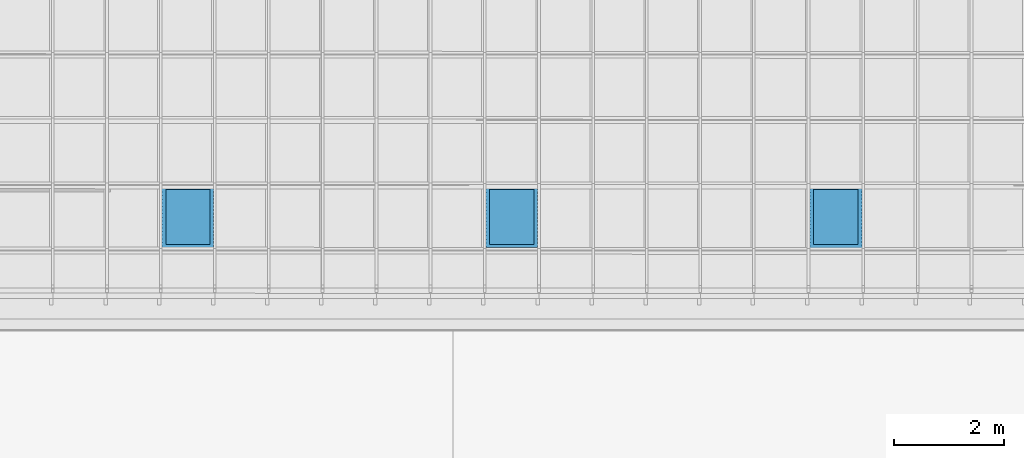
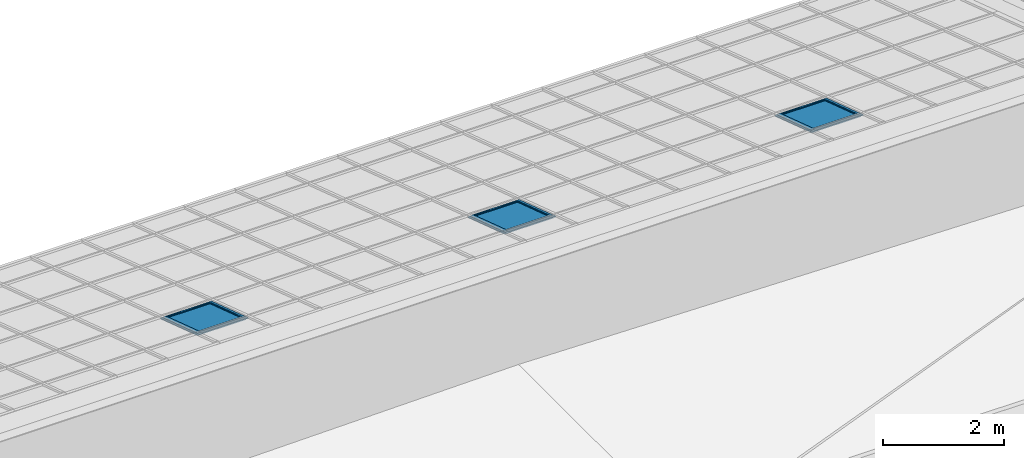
# One storey, part 22 of 47: 6 building element parts, 4 elements without a shape of their own.
"""IFC2X3 building model written with IfcOpenShell, lengths in millimetres."""

from ifc_helpers import new_model, entity, si_unit, converted_unit, derived_unit, money_unit, direction, frame, origin_with_axes, place, context, subcontext, project, spatial, faceted_brep, material, type_object, element, aggregate, save


model = new_model("IFC2X3")

# Units and contexts
model_context = context("Model", 3, precision=1e-05, world=origin_with_axes(), true_north=direction((0.0, 1.0)))
body_context = subcontext(model_context, "Body", "Model", "MODEL_VIEW")
ifc_project = project(units=[si_unit("LENGTHUNIT", "METRE", prefix="MILLI"), si_unit("AREAUNIT", "SQUARE_METRE"), si_unit("VOLUMEUNIT", "CUBIC_METRE"), converted_unit("PLANEANGLEUNIT", "DEGREE", entity("IfcPlaneAngleMeasure", 0.0174532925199), si_unit("PLANEANGLEUNIT", "RADIAN"), dimensions=[0, 0, 0, 0, 0, 0, 0]), si_unit("SOLIDANGLEUNIT", "STERADIAN"), money_unit("EUR"), converted_unit("TIMEUNIT", "Year", entity("IfcTimeMeasure", 31556926.0), si_unit("TIMEUNIT", "SECOND"), dimensions=[0, 0, 1, 0, 0, 0, 0]), si_unit("MASSUNIT", "GRAM", prefix="KILO"), si_unit("THERMODYNAMICTEMPERATUREUNIT", "DEGREE_CELSIUS"), si_unit("LUMINOUSINTENSITYUNIT", "LUMEN"), si_unit("ENERGYUNIT", "JOULE", prefix="MEGA"), derived_unit("THERMALCONDUCTANCEUNIT", [(si_unit("POWERUNIT", "WATT"), 1), (si_unit("LENGTHUNIT", "METRE"), -1), (si_unit("THERMODYNAMICTEMPERATUREUNIT", "KELVIN"), -1)]), derived_unit("SPECIFICHEATCAPACITYUNIT", [(si_unit("ENERGYUNIT", "JOULE"), 1), (si_unit("MASSUNIT", "GRAM", prefix="KILO"), -1), (si_unit("THERMODYNAMICTEMPERATUREUNIT", "KELVIN"), -1)]), derived_unit("MASSDENSITYUNIT", [(si_unit("MASSUNIT", "GRAM", prefix="KILO"), 1), (si_unit("VOLUMEUNIT", "CUBIC_METRE"), -1)])], contexts=[model_context])

# Site, building, storey
site_placement = place(None, origin_with_axes())
site = spatial("IfcSite", under=ifc_project, at=site_placement, Name="Site", CompositionType="ELEMENT")
building_placement = place(site_placement, origin_with_axes())
building = spatial("IfcBuilding", under=site, at=building_placement, Name="Building", CompositionType="ELEMENT")
storey_placement = place(building_placement, frame((0.0, 0.0, 6000.0), z_axis=(0.0, 0.0, 1.0), x_axis=(1.0, 0.0, 0.0)))
storey = spatial("IfcBuildingStorey", under=building, at=storey_placement, Name="KATUSEPLAAN", CompositionType="ELEMENT", Elevation=6000.0)

# Curtain wall, windows, building element parts
curtain_wall_type = type_object("IfcCurtainWallType", Name="KK-2", PredefinedType="NOTDEFINED")
curtain_wall_placement = place(storey_placement, frame((71638.1505463, 41358.6055567, 722.550081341), z_axis=(0.0, 0.0, 1.0), x_axis=(1.0, 0.0, 0.0)))
curtain_wall = element("IfcCurtainWall", 1, at=curtain_wall_placement, inside=storey, type_object=curtain_wall_type, Name="Talveaja klaaskatus")
window_style = type_object("IfcWindowStyle", Name="Curtain Wall Panel - Window 5 x 5 x 20", ConstructionType="NOTDEFINED", OperationType="NOTDEFINED", ParameterTakesPrecedence=False, Sizeable=False)
window_1_placement = place(curtain_wall_placement, frame((5888.99750429, 1068.74555794, 1622.9513909), z_axis=(0.0, 0.0, 1.0), x_axis=(-0.999995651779, 0.00294896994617, 0.0)))
window_1 = element("IfcWindow", 2, at=window_1_placement, type_object=window_style, Name="Suitsuluuk * CW Window 22")
ifc_material_1 = material(Name="Alumiinium (1)")
building_element_part_1_placement = place(window_1_placement, origin_with_axes())
building_element_part_1 = element("IfcBuildingElementPart", 3, at=building_element_part_1_placement, material=ifc_material_1, Name="Alumiinium (1)", context=body_context, shape_type="Brep", body=[
    faceted_brep([(469.679116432, -575.007553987, -167.904307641), (469.679116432, -576.568510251, -163.154211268), (-466.317228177, -579.05972531, -163.972863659), (-466.317228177, -577.498769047, -168.722960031), (424.553221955, -532.376624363, -153.895114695), (424.553221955, -533.937580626, -149.145018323), (-421.443475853, -536.189255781, -149.884954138), (-421.443475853, -534.628299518, -154.635050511)], [[[0, 1, 2, 3]], [[4, 5, 1, 0]], [[1, 5, 6, 2]], [[3, 2, 6, 7]], [[0, 3, 7, 4]], [[7, 6, 5, 4]]]),
    faceted_brep([(-466.317228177, -577.498769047, -168.722960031), (-466.317228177, -579.05972531, -163.972863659), (-469.679123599, 560.958947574, 210.655174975), (-469.679123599, 562.519903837, 205.905078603), (-421.443475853, -534.628299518, -154.635050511), (-421.443475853, -536.189255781, -149.884954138), (-424.553229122, 518.328017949, 196.645982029), (-424.553229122, 519.888974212, 191.895885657)], [[[0, 1, 2, 3]], [[4, 5, 1, 0]], [[1, 5, 6, 2]], [[3, 2, 6, 7]], [[0, 3, 7, 4]], [[7, 6, 5, 4]]]),
    faceted_brep([(466.31722101, 565.011118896, 206.723730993), (466.31722101, 563.450162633, 211.473827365), (421.443468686, 520.579693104, 197.385917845), (421.443468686, 522.140649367, 192.635821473), (-469.679123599, 562.519903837, 205.905078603), (-469.679123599, 560.958947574, 210.655174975), (-424.553229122, 518.328017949, 196.645982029), (-424.553229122, 519.888974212, 191.895885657)], [[[0, 1, 2, 3]], [[4, 5, 1, 0]], [[1, 5, 6, 2]], [[3, 2, 6, 7]], [[0, 3, 7, 4]], [[7, 6, 5, 4]]]),
    faceted_brep([(469.679116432, -575.007553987, -167.904307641), (469.679116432, -576.568510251, -163.154211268), (424.553221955, -533.937580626, -149.145018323), (424.553221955, -532.376624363, -153.895114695), (466.31722101, 565.011118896, 206.723730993), (466.31722101, 563.450162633, 211.473827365), (421.443468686, 520.579693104, 197.385917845), (421.443468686, 522.140649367, 192.635821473)], [[[0, 1, 2, 3]], [[4, 5, 1, 0]], [[1, 5, 6, 2]], [[3, 2, 6, 7]], [[0, 3, 7, 4]], [[7, 6, 5, 4]]]),
    faceted_brep([(469.679116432, -559.397991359, -215.405271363), (469.679116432, -575.007553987, -167.904307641), (-466.317228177, -577.498769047, -168.722960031), (-466.317228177, -561.889206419, -216.223923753), (449.623163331, -540.450911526, -209.178963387), (449.623163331, -556.060474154, -161.677999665), (-446.373338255, -558.445227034, -162.461666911), (-446.373338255, -542.835664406, -209.962630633)], [[[0, 1, 2, 3]], [[4, 5, 1, 0]], [[1, 5, 6, 2]], [[3, 2, 6, 7]], [[0, 3, 7, 4]], [[7, 6, 5, 4]]]),
    faceted_brep([(-466.317228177, -561.889206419, -216.223923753), (-466.317228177, -577.498769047, -168.722960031), (-469.679123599, 562.519903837, 205.905078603), (-469.679123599, 578.129466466, 158.404114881), (-446.373338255, -542.835664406, -209.962630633), (-446.373338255, -558.445227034, -162.461666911), (-449.623170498, 543.572824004, 199.678770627), (-449.623170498, 559.182386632, 152.177806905)], [[[0, 1, 2, 3]], [[4, 5, 1, 0]], [[1, 5, 6, 2]], [[3, 2, 6, 7]], [[0, 3, 7, 4]], [[7, 6, 5, 4]]]),
    faceted_brep([(466.31722101, 580.620681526, 159.222767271), (466.31722101, 565.011118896, 206.723730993), (446.373331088, 545.957576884, 200.462437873), (446.373331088, 561.567139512, 152.961474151), (-469.679123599, 578.129466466, 158.404114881), (-469.679123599, 562.519903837, 205.905078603), (-449.623170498, 543.572824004, 199.678770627), (-449.623170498, 559.182386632, 152.177806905)], [[[0, 1, 2, 3]], [[4, 5, 1, 0]], [[1, 5, 6, 2]], [[3, 2, 6, 7]], [[0, 3, 7, 4]], [[7, 6, 5, 4]]]),
    faceted_brep([(469.679116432, -559.397991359, -215.405271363), (469.679116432, -575.007553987, -167.904307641), (449.623163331, -556.060474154, -161.677999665), (449.623163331, -540.450911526, -209.178963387), (466.31722101, 580.620681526, 159.222767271), (466.31722101, 565.011118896, 206.723730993), (446.373331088, 545.957576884, 200.462437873), (446.373331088, 561.567139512, 152.961474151)], [[[0, 1, 2, 3]], [[4, 5, 1, 0]], [[1, 5, 6, 2]], [[3, 2, 6, 7]], [[0, 3, 7, 4]], [[7, 6, 5, 4]]]),
    faceted_brep([(499.763044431, -594.062427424, -205.744344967), (499.763044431, -600.306252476, -186.743959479), (-496.233048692, -602.957160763, -187.615089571), (-496.233048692, -596.713335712, -206.61547506), (469.679116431, -565.64181641, -196.404885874), (469.679116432, -571.885641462, -177.404500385), (-466.317228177, -574.376856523, -178.223152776), (-466.317228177, -568.13303147, -197.223538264)], [[[0, 1, 2, 3]], [[4, 5, 1, 0]], [[1, 5, 6, 2]], [[3, 2, 6, 7]], [[0, 3, 7, 4]], [[7, 6, 5, 4]]]),
    faceted_brep([(-496.233048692, -596.713335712, -206.61547506), (-496.233048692, -602.957160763, -187.615089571), (-499.763038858, 594.062436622, 205.74434799), (-499.763038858, 600.306261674, 186.743962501), (-466.317228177, -568.13303147, -197.223538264), (-466.317228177, -574.376856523, -178.223152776), (-469.679123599, 565.641816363, 196.404885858), (-469.679123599, 571.885641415, 177.404500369)], [[[0, 1, 2, 3]], [[4, 5, 1, 0]], [[1, 5, 6, 2]], [[3, 2, 6, 7]], [[0, 3, 7, 4]], [[7, 6, 5, 4]]]),
    faceted_brep([(-499.763038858, 600.306261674, 186.743962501), (-499.763038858, 594.062436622, 205.74434799), (496.233054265, 596.713344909, 206.615478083), (496.233054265, 602.957169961, 187.615092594), (-469.679123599, 571.885641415, 177.404500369), (-469.679123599, 565.641816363, 196.404885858), (466.31722101, 568.133031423, 197.223538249), (466.31722101, 574.376856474, 178.22315276)], [[[0, 1, 2, 3]], [[4, 5, 1, 0]], [[1, 5, 6, 2]], [[3, 2, 6, 7]], [[0, 3, 7, 4]], [[7, 6, 5, 4]]]),
    faceted_brep([(496.233054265, 602.957169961, 187.615092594), (496.233054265, 596.713344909, 206.615478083), (499.763044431, -600.306252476, -186.743959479), (499.763044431, -594.062427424, -205.744344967), (466.31722101, 574.376856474, 178.22315276), (466.31722101, 568.133031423, 197.223538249), (469.679116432, -571.885641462, -177.404500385), (469.679116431, -565.64181641, -196.404885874)], [[[0, 1, 2, 3]], [[4, 5, 1, 0]], [[1, 5, 6, 2]], [[3, 2, 6, 7]], [[0, 3, 7, 4]], [[7, 6, 5, 4]]]),
    faceted_brep([(404.497268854, -513.42954453, -147.668806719), (401.499578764, 503.087107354, 186.374528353), (401.499578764, 520.257626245, 134.123468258), (404.497268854, -496.259025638, -199.919866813), (449.623163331, -556.060474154, -161.677999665), (446.373331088, 545.957576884, 200.462437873), (446.373331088, 563.128095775, 148.211377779), (449.623163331, -538.889955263, -213.929059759)], [[[0, 1, 2, 3]], [[0, 4, 5, 1]], [[1, 5, 6, 2]], [[3, 2, 6, 7]], [[4, 0, 3, 7]], [[5, 4, 7, 6]]]),
    faceted_brep([(-446.373338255, -558.445227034, -162.461666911), (-449.623170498, 543.572824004, 199.678770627), (-449.623170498, 560.743342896, 147.427710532), (-446.373338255, -541.274708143, -214.712727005), (-401.499585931, -515.574757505, -148.37375739), (-404.497276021, 500.941894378, 185.669577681), (-404.497276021, 518.112413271, 133.418517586), (-401.499585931, -498.404238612, -200.624817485)], [[[0, 1, 2, 3]], [[0, 4, 5, 1]], [[1, 5, 6, 2]], [[3, 2, 6, 7]], [[4, 0, 3, 7]], [[5, 4, 7, 6]]]),
    faceted_brep([(-446.373338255, -558.445227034, -162.461666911), (-401.499585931, -515.574757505, -148.37375739), (-401.499585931, -498.404238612, -200.624817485), (-446.373338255, -541.274708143, -214.712727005), (449.623163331, -556.060474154, -161.677999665), (404.497268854, -513.42954453, -147.668806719), (404.497268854, -496.259025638, -199.919866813), (449.623163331, -538.889955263, -213.929059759)], [[[0, 1, 2, 3]], [[0, 4, 5, 1]], [[1, 5, 6, 2]], [[3, 2, 6, 7]], [[4, 0, 3, 7]], [[5, 4, 7, 6]]]),
    faceted_brep([(446.373331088, 545.957576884, 200.462437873), (401.499578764, 503.087107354, 186.374528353), (401.499578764, 520.257626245, 134.123468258), (446.373331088, 563.128095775, 148.211377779), (-449.623170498, 543.572824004, 199.678770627), (-404.497276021, 500.941894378, 185.669577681), (-404.497276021, 518.112413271, 133.418517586), (-449.623170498, 560.743342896, 147.427710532)], [[[0, 1, 2, 3]], [[0, 4, 5, 1]], [[1, 5, 6, 2]], [[3, 2, 6, 7]], [[4, 0, 3, 7]], [[5, 4, 7, 6]]]),
])
ifc_material_2 = material(Name="Klaas (1)")
building_element_part_2_placement = place(window_1_placement, origin_with_axes())
building_element_part_2 = element("IfcBuildingElementPart", 4, at=building_element_part_2_placement, material=ifc_material_2, Name="Klaas (1)", context=body_context, shape_type="Brep", body=[
    faceted_brep([(404.497268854, -510.307632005, -157.168999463), (-401.499585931, -512.452844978, -157.873950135), (-401.499585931, -507.457784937, -173.074258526), (404.497268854, -505.312571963, -172.369307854), (401.499578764, 506.209019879, 176.874335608), (-404.497276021, 504.063806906, 176.169384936), (-404.497276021, 509.058866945, 160.969076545), (401.499578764, 511.204079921, 161.674027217)], [[[0, 1, 2, 3]], [[0, 4, 5, 1]], [[1, 5, 6, 2]], [[3, 2, 6, 7]], [[4, 0, 3, 7]], [[5, 4, 7, 6]]]),
])
aggregate(window_1, [building_element_part_1, building_element_part_2])
window_2_placement = place(curtain_wall_placement, frame((11776.4950092, 1067.05339951, 1617.80201499), z_axis=(0.0, 0.0, 1.0), x_axis=(-0.999995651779, 0.00294896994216, 0.0)))
window_2 = element("IfcWindow", 5, at=window_2_placement, type_object=window_style, Name="Suitsuluuk * CW Window 22")
building_element_part_3_placement = place(window_2_placement, origin_with_axes())
building_element_part_3 = element("IfcBuildingElementPart", 6, at=building_element_part_3_placement, material=ifc_material_1, Name="Alumiinium (1)", context=body_context, shape_type="Brep", body=[
    faceted_brep([(473.179105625, -574.998233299, -167.901244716), (473.179105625, -576.559189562, -163.151148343), (-469.817197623, -579.069035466, -163.975923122), (-469.817197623, -577.508079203, -168.726019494), (428.053211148, -532.367303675, -153.89205177), (428.053211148, -533.928259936, -149.141955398), (-424.943445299, -536.198565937, -149.888013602), (-424.943445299, -534.637609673, -154.638109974)], [[[0, 1, 2, 3]], [[4, 5, 1, 0]], [[1, 5, 6, 2]], [[3, 2, 6, 7]], [[0, 3, 7, 4]], [[7, 6, 5, 4]]]),
    faceted_brep([(-469.817197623, -577.508079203, -168.726019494), (-469.817197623, -579.069035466, -163.975923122), (-473.179093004, 560.949623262, 210.65211086), (-473.179093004, 562.510579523, 205.902014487), (-424.943445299, -534.637609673, -154.638109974), (-424.943445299, -536.198565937, -149.888013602), (-428.053198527, 518.318693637, 196.642917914), (-428.053198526, 519.879649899, 191.892821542)], [[[0, 1, 2, 3]], [[4, 5, 1, 0]], [[1, 5, 6, 2]], [[3, 2, 6, 7]], [[0, 3, 7, 4]], [[7, 6, 5, 4]]]),
    faceted_brep([(469.817210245, 565.020425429, 206.726789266), (469.817210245, 563.459469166, 211.476885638), (424.943457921, 520.588999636, 197.388976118), (424.943457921, 522.149955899, 192.638879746), (-473.179093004, 562.510579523, 205.902014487), (-473.179093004, 560.949623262, 210.65211086), (-428.053198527, 518.318693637, 196.642917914), (-428.053198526, 519.879649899, 191.892821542)], [[[0, 1, 2, 3]], [[4, 5, 1, 0]], [[1, 5, 6, 2]], [[3, 2, 6, 7]], [[0, 3, 7, 4]], [[7, 6, 5, 4]]]),
    faceted_brep([(473.179105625, -574.998233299, -167.901244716), (473.179105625, -576.559189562, -163.151148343), (428.053211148, -533.928259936, -149.141955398), (428.053211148, -532.367303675, -153.89205177), (469.817210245, 565.020425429, 206.726789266), (469.817210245, 563.459469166, 211.476885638), (424.943457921, 520.588999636, 197.388976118), (424.943457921, 522.149955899, 192.638879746)], [[[0, 1, 2, 3]], [[4, 5, 1, 0]], [[1, 5, 6, 2]], [[3, 2, 6, 7]], [[0, 3, 7, 4]], [[7, 6, 5, 4]]]),
    faceted_brep([(473.179105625, -559.388670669, -215.402208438), (473.179105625, -574.998233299, -167.901244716), (-469.817197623, -577.508079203, -168.726019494), (-469.817197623, -561.898516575, -216.226983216), (453.123152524, -540.441590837, -209.175900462), (453.123152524, -556.051153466, -161.67493674), (-449.873307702, -558.454537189, -162.464726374), (-449.873307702, -542.84497456, -209.965690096)], [[[0, 1, 2, 3]], [[4, 5, 1, 0]], [[1, 5, 6, 2]], [[3, 2, 6, 7]], [[0, 3, 7, 4]], [[7, 6, 5, 4]]]),
    faceted_brep([(-469.817197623, -561.898516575, -216.226983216), (-469.817197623, -577.508079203, -168.726019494), (-473.179093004, 562.510579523, 205.902014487), (-473.179093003, 578.120142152, 158.401050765), (-449.873307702, -542.84497456, -209.965690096), (-449.873307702, -558.454537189, -162.464726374), (-453.123139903, 543.563499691, 199.675706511), (-453.123139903, 559.17306232, 152.174742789)], [[[0, 1, 2, 3]], [[4, 5, 1, 0]], [[1, 5, 6, 2]], [[3, 2, 6, 7]], [[0, 3, 7, 4]], [[7, 6, 5, 4]]]),
    faceted_brep([(469.817210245, 580.629988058, 159.225825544), (469.817210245, 565.020425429, 206.726789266), (449.873320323, 545.966883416, 200.465496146), (449.873320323, 561.576446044, 152.964532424), (-473.179093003, 578.120142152, 158.401050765), (-473.179093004, 562.510579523, 205.902014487), (-453.123139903, 543.563499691, 199.675706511), (-453.123139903, 559.17306232, 152.174742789)], [[[0, 1, 2, 3]], [[4, 5, 1, 0]], [[1, 5, 6, 2]], [[3, 2, 6, 7]], [[0, 3, 7, 4]], [[7, 6, 5, 4]]]),
    faceted_brep([(473.179105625, -559.388670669, -215.402208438), (473.179105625, -574.998233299, -167.901244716), (453.123152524, -556.051153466, -161.67493674), (453.123152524, -540.441590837, -209.175900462), (469.817210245, 580.629988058, 159.225825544), (469.817210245, 565.020425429, 206.726789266), (449.873320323, 545.966883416, 200.465496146), (449.873320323, 561.576446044, 152.964532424)], [[[0, 1, 2, 3]], [[4, 5, 1, 0]], [[1, 5, 6, 2]], [[3, 2, 6, 7]], [[0, 3, 7, 4]], [[7, 6, 5, 4]]]),
    faceted_brep([(503.263032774, -594.053119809, -205.741286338), (503.263032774, -600.29694486, -186.74090085), (-499.733042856, -602.966484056, -187.618153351), (-499.733042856, -596.722659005, -206.61853884), (473.179105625, -565.632495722, -196.401822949), (473.179105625, -571.876320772, -177.40143746), (-469.817197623, -574.386166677, -178.226212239), (-469.817197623, -568.142341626, -197.226597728)], [[[0, 1, 2, 3]], [[4, 5, 1, 0]], [[1, 5, 6, 2]], [[3, 2, 6, 7]], [[0, 3, 7, 4]], [[7, 6, 5, 4]]]),
    faceted_brep([(-499.733042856, -596.722659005, -206.61853884), (-499.733042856, -602.966484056, -187.618153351), (-503.263033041, 594.053119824, 205.741286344), (-503.263033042, 600.296944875, 186.740900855), (-469.817197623, -568.142341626, -197.226597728), (-469.817197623, -574.386166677, -178.226212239), (-473.179093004, 565.63249205, 196.401821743), (-473.179093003, 571.876317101, 177.401436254)], [[[0, 1, 2, 3]], [[4, 5, 1, 0]], [[1, 5, 6, 2]], [[3, 2, 6, 7]], [[0, 3, 7, 4]], [[7, 6, 5, 4]]]),
    faceted_brep([(-503.263033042, 600.296944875, 186.740900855), (-503.263033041, 594.053119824, 205.741286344), (499.733042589, 596.722659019, 206.618538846), (499.733042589, 602.966484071, 187.618153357), (-473.179093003, 571.876317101, 177.401436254), (-473.179093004, 565.63249205, 196.401821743), (469.817210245, 568.142337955, 197.226596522), (469.817210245, 574.386163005, 178.226211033)], [[[0, 1, 2, 3]], [[4, 5, 1, 0]], [[1, 5, 6, 2]], [[3, 2, 6, 7]], [[0, 3, 7, 4]], [[7, 6, 5, 4]]]),
    faceted_brep([(499.733042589, 602.966484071, 187.618153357), (499.733042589, 596.722659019, 206.618538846), (503.263032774, -600.29694486, -186.74090085), (503.263032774, -594.053119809, -205.741286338), (469.817210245, 574.386163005, 178.226211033), (469.817210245, 568.142337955, 197.226596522), (473.179105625, -571.876320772, -177.40143746), (473.179105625, -565.632495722, -196.401822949)], [[[0, 1, 2, 3]], [[4, 5, 1, 0]], [[1, 5, 6, 2]], [[3, 2, 6, 7]], [[0, 3, 7, 4]], [[7, 6, 5, 4]]]),
    faceted_brep([(407.997258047, -513.420223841, -147.665743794), (404.999567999, 503.096413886, 186.377586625), (404.999567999, 520.266932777, 134.126526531), (407.997258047, -496.249704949, -199.916803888), (453.123152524, -556.051153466, -161.67493674), (449.873320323, 545.966883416, 200.465496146), (449.873320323, 563.137402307, 148.214436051), (453.123152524, -538.880634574, -213.925996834)], [[[0, 1, 2, 3]], [[0, 4, 5, 1]], [[1, 5, 6, 2]], [[3, 2, 6, 7]], [[4, 0, 3, 7]], [[5, 4, 7, 6]]]),
    faceted_brep([(-449.873307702, -558.454537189, -162.464726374), (-453.123139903, 543.563499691, 199.675706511), (-453.123139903, 560.734018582, 147.424646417), (-449.873307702, -541.284018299, -214.715786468), (-404.999555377, -515.584067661, -148.376816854), (-407.997245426, 500.932570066, 185.666513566), (-407.997245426, 518.103088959, 133.415453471), (-404.999555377, -498.413548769, -200.627876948)], [[[0, 1, 2, 3]], [[0, 4, 5, 1]], [[1, 5, 6, 2]], [[3, 2, 6, 7]], [[4, 0, 3, 7]], [[5, 4, 7, 6]]]),
    faceted_brep([(-449.873307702, -558.454537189, -162.464726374), (-404.999555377, -515.584067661, -148.376816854), (-404.999555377, -498.413548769, -200.627876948), (-449.873307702, -541.284018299, -214.715786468), (453.123152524, -556.051153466, -161.67493674), (407.997258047, -513.420223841, -147.665743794), (407.997258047, -496.249704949, -199.916803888), (453.123152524, -538.880634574, -213.925996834)], [[[0, 1, 2, 3]], [[0, 4, 5, 1]], [[1, 5, 6, 2]], [[3, 2, 6, 7]], [[4, 0, 3, 7]], [[5, 4, 7, 6]]]),
    faceted_brep([(449.873320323, 545.966883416, 200.465496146), (404.999567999, 503.096413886, 186.377586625), (404.999567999, 520.266932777, 134.126526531), (449.873320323, 563.137402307, 148.214436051), (-453.123139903, 543.563499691, 199.675706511), (-407.997245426, 500.932570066, 185.666513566), (-407.997245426, 518.103088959, 133.415453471), (-453.123139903, 560.734018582, 147.424646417)], [[[0, 1, 2, 3]], [[0, 4, 5, 1]], [[1, 5, 6, 2]], [[3, 2, 6, 7]], [[4, 0, 3, 7]], [[5, 4, 7, 6]]]),
])
building_element_part_4_placement = place(window_2_placement, origin_with_axes())
building_element_part_4 = element("IfcBuildingElementPart", 7, at=building_element_part_4_placement, material=ifc_material_2, Name="Klaas (1)", context=body_context, shape_type="Brep", body=[
    faceted_brep([(407.997258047, -510.298311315, -157.165936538), (-404.999555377, -512.462155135, -157.877009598), (-404.999555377, -507.467095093, -173.077317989), (407.997258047, -505.303251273, -172.366244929), (404.999567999, 506.218326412, 176.877393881), (-407.997245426, 504.054482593, 176.166320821), (-407.997245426, 509.049542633, 160.96601243), (404.999567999, 511.213386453, 161.67708549)], [[[0, 1, 2, 3]], [[0, 4, 5, 1]], [[1, 5, 6, 2]], [[3, 2, 6, 7]], [[4, 0, 3, 7]], [[5, 4, 7, 6]]]),
])
aggregate(window_2, [building_element_part_3, building_element_part_4])
window_3_placement = place(curtain_wall_placement, frame((0.0, 1070.4381475, 1628.10207876), z_axis=(0.0, 0.0, 1.0), x_axis=(-0.999995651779, 0.00294896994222, 0.0)))
window_3 = element("IfcWindow", 8, at=window_3_placement, type_object=window_style, Name="Suitsuluuk * CW Window 22")
aggregate(curtain_wall, [window_1, window_2, window_3])
building_element_part_5_placement = place(window_3_placement, origin_with_axes())
building_element_part_5 = element("IfcBuildingElementPart", 9, at=building_element_part_5_placement, material=ifc_material_1, Name="Alumiinium (1)", context=body_context, shape_type="Brep", body=[
    faceted_brep([(466.679128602, -575.015539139, -167.906931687), (466.679128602, -576.576495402, -163.156835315), (-463.317217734, -579.051741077, -163.970239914), (-463.317217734, -577.490784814, -168.720336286), (421.553234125, -532.384609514, -153.897738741), (421.553234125, -533.945565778, -149.147642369), (-418.44346541, -536.181271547, -149.882330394), (-418.44346541, -534.620315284, -154.632426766)], [[[0, 1, 2, 3]], [[4, 5, 1, 0]], [[1, 5, 6, 2]], [[3, 2, 6, 7]], [[0, 3, 7, 4]], [[7, 6, 5, 4]]]),
    faceted_brep([(-463.317217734, -577.490784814, -168.720336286), (-463.317217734, -579.051741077, -163.970239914), (-466.679113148, 560.966929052, 210.657797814), (-466.679113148, 562.527885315, 205.907701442), (-418.44346541, -534.620315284, -154.632426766), (-418.44346541, -536.181271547, -149.882330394), (-421.553218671, 518.335999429, 196.648604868), (-421.553218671, 519.896955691, 191.898508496)], [[[0, 1, 2, 3]], [[4, 5, 1, 0]], [[1, 5, 6, 2]], [[3, 2, 6, 7]], [[0, 3, 7, 4]], [[7, 6, 5, 4]]]),
    faceted_brep([(463.317233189, 565.003130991, 206.721106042), (463.317233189, 563.442174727, 211.471202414), (418.443480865, 520.571705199, 197.383292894), (418.443480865, 522.13266146, 192.633196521), (-466.679113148, 562.527885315, 205.907701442), (-466.679113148, 560.966929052, 210.657797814), (-421.553218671, 518.335999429, 196.648604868), (-421.553218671, 519.896955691, 191.898508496)], [[[0, 1, 2, 3]], [[4, 5, 1, 0]], [[1, 5, 6, 2]], [[3, 2, 6, 7]], [[0, 3, 7, 4]], [[7, 6, 5, 4]]]),
    faceted_brep([(466.679128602, -575.015539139, -167.906931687), (466.679128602, -576.576495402, -163.156835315), (421.553234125, -533.945565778, -149.147642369), (421.553234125, -532.384609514, -153.897738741), (463.317233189, 565.003130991, 206.721106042), (463.317233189, 563.442174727, 211.471202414), (418.443480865, 520.571705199, 197.383292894), (418.443480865, 522.13266146, 192.633196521)], [[[0, 1, 2, 3]], [[4, 5, 1, 0]], [[1, 5, 6, 2]], [[3, 2, 6, 7]], [[0, 3, 7, 4]], [[7, 6, 5, 4]]]),
    faceted_brep([(466.679128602, -559.40597651, -215.407895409), (466.679128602, -575.015539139, -167.906931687), (-463.317217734, -577.490784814, -168.720336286), (-463.317217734, -561.881222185, -216.221300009), (446.623175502, -540.458896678, -209.181587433), (446.623175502, -556.068459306, -161.680623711), (-443.373327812, -558.437242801, -162.459043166), (-443.373327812, -542.827680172, -209.960006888)], [[[0, 1, 2, 3]], [[4, 5, 1, 0]], [[1, 5, 6, 2]], [[3, 2, 6, 7]], [[0, 3, 7, 4]], [[7, 6, 5, 4]]]),
    faceted_brep([(-463.317217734, -561.881222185, -216.221300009), (-463.317217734, -577.490784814, -168.720336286), (-466.679113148, 562.527885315, 205.907701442), (-466.679113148, 578.137447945, 158.40673772), (-443.373327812, -542.827680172, -209.960006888), (-443.373327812, -558.437242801, -162.459043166), (-446.623160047, 543.580805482, 199.681393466), (-446.623160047, 559.190368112, 152.180429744)], [[[0, 1, 2, 3]], [[4, 5, 1, 0]], [[1, 5, 6, 2]], [[3, 2, 6, 7]], [[0, 3, 7, 4]], [[7, 6, 5, 4]]]),
    faceted_brep([(463.317233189, 580.61269362, 159.22014232), (463.317233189, 565.003130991, 206.721106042), (443.373343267, 545.949588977, 200.459812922), (443.373343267, 561.559151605, 152.958849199), (-466.679113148, 578.137447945, 158.40673772), (-466.679113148, 562.527885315, 205.907701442), (-446.623160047, 543.580805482, 199.681393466), (-446.623160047, 559.190368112, 152.180429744)], [[[0, 1, 2, 3]], [[4, 5, 1, 0]], [[1, 5, 6, 2]], [[3, 2, 6, 7]], [[0, 3, 7, 4]], [[7, 6, 5, 4]]]),
    faceted_brep([(466.679128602, -559.40597651, -215.407895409), (466.679128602, -575.015539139, -167.906931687), (446.623175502, -556.068459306, -161.680623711), (446.623175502, -540.458896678, -209.181587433), (463.317233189, 580.61269362, 159.22014232), (463.317233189, 565.003130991, 206.721106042), (443.373343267, 545.949588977, 200.459812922), (443.373343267, 561.559151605, 152.958849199)], [[[0, 1, 2, 3]], [[4, 5, 1, 0]], [[1, 5, 6, 2]], [[3, 2, 6, 7]], [[0, 3, 7, 4]], [[7, 6, 5, 4]]]),
    faceted_brep([(496.763052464, -594.070414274, -205.746969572), (496.763052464, -600.314239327, -186.746584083), (-493.233065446, -602.94917829, -187.612466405), (-493.233065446, -596.705353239, -206.612851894), (466.679128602, -565.649801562, -196.40750992), (466.679128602, -571.893626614, -177.407124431), (-463.317217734, -574.368872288, -178.220529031), (-463.317217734, -568.125047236, -197.22091452)], [[[0, 1, 2, 3]], [[4, 5, 1, 0]], [[1, 5, 6, 2]], [[3, 2, 6, 7]], [[0, 3, 7, 4]], [[7, 6, 5, 4]]]),
    faceted_brep([(-493.233065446, -596.705353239, -206.612851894), (-493.233065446, -602.94917829, -187.612466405), (-496.763055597, 594.070414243, 205.746969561), (-496.763055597, 600.314239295, 186.746584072), (-463.317217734, -568.125047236, -197.22091452), (-463.317217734, -574.368872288, -178.220529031), (-466.679113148, 565.649797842, 196.407508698), (-466.679113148, 571.893622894, 177.407123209)], [[[0, 1, 2, 3]], [[4, 5, 1, 0]], [[1, 5, 6, 2]], [[3, 2, 6, 7]], [[0, 3, 7, 4]], [[7, 6, 5, 4]]]),
    faceted_brep([(-496.763055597, 600.314239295, 186.746584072), (-496.763055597, 594.070414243, 205.746969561), (493.233062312, 596.705353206, 206.612851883), (493.233062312, 602.949178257, 187.612466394), (-466.679113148, 571.893622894, 177.407123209), (-466.679113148, 565.649797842, 196.407508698), (463.317233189, 568.125043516, 197.220913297), (463.317233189, 574.368868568, 178.220527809)], [[[0, 1, 2, 3]], [[4, 5, 1, 0]], [[1, 5, 6, 2]], [[3, 2, 6, 7]], [[0, 3, 7, 4]], [[7, 6, 5, 4]]]),
    faceted_brep([(493.233062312, 602.949178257, 187.612466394), (493.233062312, 596.705353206, 206.612851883), (496.763052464, -600.314239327, -186.746584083), (496.763052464, -594.070414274, -205.746969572), (463.317233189, 574.368868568, 178.220527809), (463.317233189, 568.125043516, 197.220913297), (466.679128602, -571.893626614, -177.407124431), (466.679128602, -565.649801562, -196.40750992)], [[[0, 1, 2, 3]], [[4, 5, 1, 0]], [[1, 5, 6, 2]], [[3, 2, 6, 7]], [[0, 3, 7, 4]], [[7, 6, 5, 4]]]),
    faceted_brep([(401.497281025, -513.437529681, -147.671430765), (398.499590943, 503.079119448, 186.371903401), (398.499590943, 520.249638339, 134.120843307), (401.497281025, -496.26701079, -199.922490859), (446.623175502, -556.068459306, -161.680623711), (443.373343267, 545.949588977, 200.459812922), (443.373343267, 563.12010787, 148.208752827), (446.623175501, -538.897940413, -213.931683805)], [[[0, 1, 2, 3]], [[0, 4, 5, 1]], [[1, 5, 6, 2]], [[3, 2, 6, 7]], [[4, 0, 3, 7]], [[5, 4, 7, 6]]]),
    faceted_brep([(-443.373327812, -558.437242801, -162.459043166), (-446.623160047, 543.580805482, 199.681393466), (-446.623160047, 560.751324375, 147.430333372), (-443.373327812, -541.266723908, -214.710103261), (-398.499575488, -515.566773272, -148.371133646), (-401.49726557, 500.949875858, 185.67220052), (-401.49726557, 518.12039475, 133.421140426), (-398.499575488, -498.396254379, -200.62219374)], [[[0, 1, 2, 3]], [[0, 4, 5, 1]], [[1, 5, 6, 2]], [[3, 2, 6, 7]], [[4, 0, 3, 7]], [[5, 4, 7, 6]]]),
    faceted_brep([(-443.373327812, -558.437242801, -162.459043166), (-398.499575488, -515.566773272, -148.371133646), (-398.499575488, -498.396254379, -200.62219374), (-443.373327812, -541.266723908, -214.710103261), (446.623175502, -556.068459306, -161.680623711), (401.497281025, -513.437529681, -147.671430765), (401.497281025, -496.26701079, -199.922490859), (446.623175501, -538.897940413, -213.931683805)], [[[0, 1, 2, 3]], [[0, 4, 5, 1]], [[1, 5, 6, 2]], [[3, 2, 6, 7]], [[4, 0, 3, 7]], [[5, 4, 7, 6]]]),
    faceted_brep([(443.373343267, 545.949588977, 200.459812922), (398.499590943, 503.079119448, 186.371903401), (398.499590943, 520.249638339, 134.120843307), (443.373343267, 563.12010787, 148.208752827), (-446.623160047, 543.580805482, 199.681393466), (-401.49726557, 500.949875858, 185.67220052), (-401.49726557, 518.12039475, 133.421140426), (-446.623160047, 560.751324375, 147.430333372)], [[[0, 1, 2, 3]], [[0, 4, 5, 1]], [[1, 5, 6, 2]], [[3, 2, 6, 7]], [[4, 0, 3, 7]], [[5, 4, 7, 6]]]),
])
building_element_part_6_placement = place(window_3_placement, origin_with_axes())
building_element_part_6 = element("IfcBuildingElementPart", 10, at=building_element_part_6_placement, material=ifc_material_2, Name="Klaas (1)", context=body_context, shape_type="Brep", body=[
    faceted_brep([(401.497281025, -510.315617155, -157.171623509), (-398.499575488, -512.444860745, -157.87132639), (-398.499575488, -507.449800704, -173.071634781), (401.497281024, -505.320557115, -172.3719319), (398.499590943, 506.201031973, 176.871710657), (-401.49726557, 504.071788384, 176.172007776), (-401.49726557, 509.066848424, 160.971699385), (398.499590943, 511.196092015, 161.671402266)], [[[0, 1, 2, 3]], [[0, 4, 5, 1]], [[1, 5, 6, 2]], [[3, 2, 6, 7]], [[4, 0, 3, 7]], [[5, 4, 7, 6]]]),
])
aggregate(window_3, [building_element_part_5, building_element_part_6])

save(model, "model.ifc")
